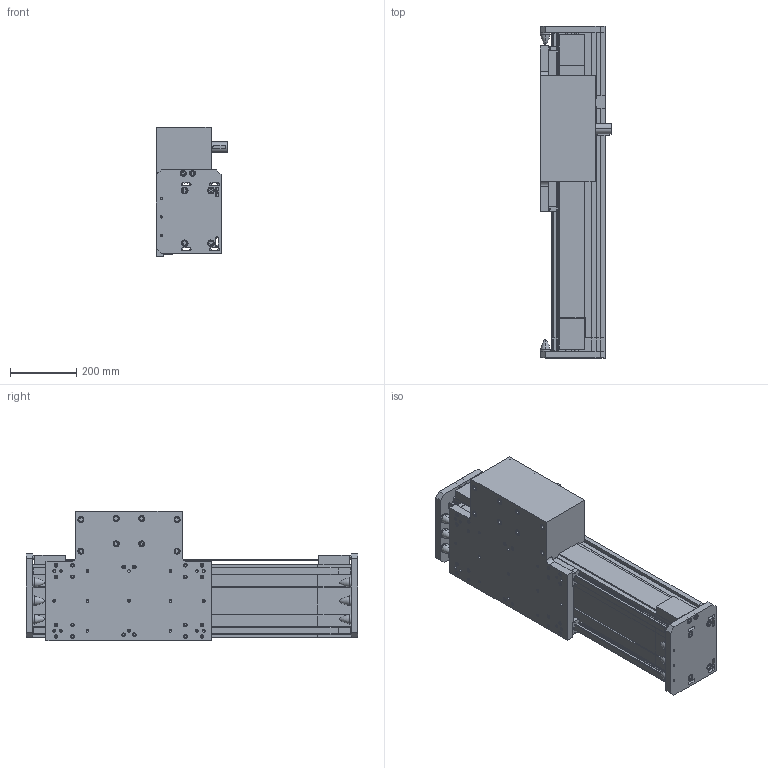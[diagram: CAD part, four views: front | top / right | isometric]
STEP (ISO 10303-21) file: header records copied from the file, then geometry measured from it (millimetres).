
FILE_DESCRIPTION(('Creo Elements/Direct Modeling STEP Export'),'2;1');
FILE_NAME('3DModell-HSBgamma-220-ASS-Schlitten-500mm.stp','2020-04-08T13:40:41',(''),(''),'Creo Elements/Direct Modeling STEP processor for AP214 (Solid Model)','Creo Elements/Direct Modeling 20.1C 13-Oct-2019 (C) Parametric Technology GmbH','');
FILE_SCHEMA(('AUTOMOTIVE_DESIGN { 1 0 10303 214 1 1 1 1 }'));
Length unit declared in the file: millimetre
Products named in the file (18): G220-ASS-Grundkoerper-Teil-1; Parabel_Feder_M8x13_16917; Endlagedaempfer_SeiteA; G220-ASS-Grundkoerper-Teil-1_kpl; G220-ASS-Grundkoerper-Teil-2; Endlagedaempfer_SeiteB; G220-ASS-Grundkoerper-Teil-2_kpl; Antriebswelle; G220-ASS-Schlitten-500; Endschalter_induktiv.3; Endschalter_induktiv.1; Endschalter_induktiv.2; Schaltfahne_28656; Linsenschraube_M4x8_EN_ISO_7380_1_10.9_vz_10243.01; Schaltfahne_28656_kpl; Induktive-Endschalter; G220-ASS_500_EN
Assembly tree (23 placements, depth 4):
  G220-ASS_500_EN
    Induktive-Endschalter
      Schaltfahne_28656_kpl
        Linsenschraube_M4x8_EN_ISO_7380_1_10.9_vz_10243.01  x2
        Schaltfahne_28656
      G220-ASS-Schlitten-500
      Endschalter_induktiv.2
      Endschalter_induktiv.1
      Endschalter_induktiv.3
    G220-ASS-Schlitten-500
    Antriebswelle
    G220-ASS-Grundkoerper-Teil-2_kpl
      Endlagedaempfer_SeiteB
        Parabel_Feder_M8x13_16917  x3
      G220-ASS-Grundkoerper-Teil-2
    G220-ASS-Grundkoerper-Teil-1_kpl
      Endlagedaempfer_SeiteA
        Parabel_Feder_M8x13_16917  x3
      G220-ASS-Grundkoerper-Teil-1
Bounding box: 215 x 1000 x 390 mm (x, y, z)
Volume: 52754569.5 mm3; surface area: 2895668.8 mm2
Topology: 17 solids, 17 shells, 3507 faces, 8918 edges, 5656 vertices
Faces by surface type: plane 1883, cylinder 1060, cone 476, extrusion 68, torus 16, sphere 4
Entity records: 105429 total; most frequent: CARTESIAN_POINT 19929, ORIENTED_EDGE 16932, DIRECTION 15062, EDGE_CURVE 8466, VECTOR 5844, LINE 5776, VERTEX_POINT 5560, AXIS2_PLACEMENT_3D 4609
